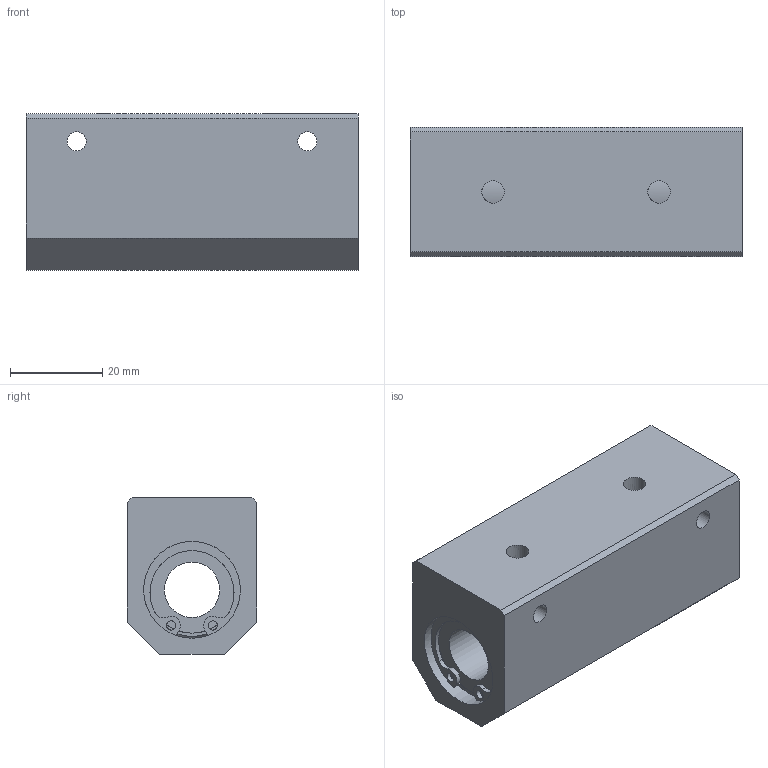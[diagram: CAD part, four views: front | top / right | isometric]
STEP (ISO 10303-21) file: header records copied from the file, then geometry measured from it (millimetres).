
FILE_DESCRIPTION((''),'2;1');
FILE_NAME('D:\製品 (図面)\カタログ用3D\メンテナンスフリー関連\STEP形式\CHW-MF\CHW12MF.stp','2010-06-01T15:32:33',('Tsuchiya'),(''),'Autodesk Inventor 10','Autodesk Inventor 10','');
FILE_SCHEMA(('AUTOMOTIVE_DESIGN { 1 0 10303 214 1 1 1 1 }'));
Length unit declared in the file: millimetre
Products named in the file (1): CHW12MF
Bounding box: 72 x 28 x 34 mm (x, y, z)
Volume: 53858.1 mm3; surface area: 14748.2 mm2
Topology: 1 solids, 3 shells, 75 faces, 191 edges, 120 vertices
Faces by surface type: plane 33, bspline 22, cylinder 18, torus 2
Full cylindrical faces by diameter (mm): 2 x2, 12 x1, 18.8 x2, 20 x2, 21 x4
Entity records: 2384 total; most frequent: CARTESIAN_POINT 712, DIRECTION 352, ORIENTED_EDGE 304, EDGE_CURVE 152, AXIS2_PLACEMENT_3D 148, EDGE_LOOP 118, VERTEX_POINT 104, CIRCLE 94
